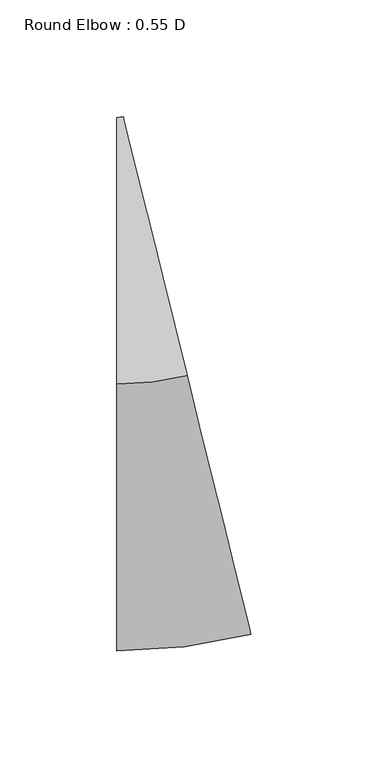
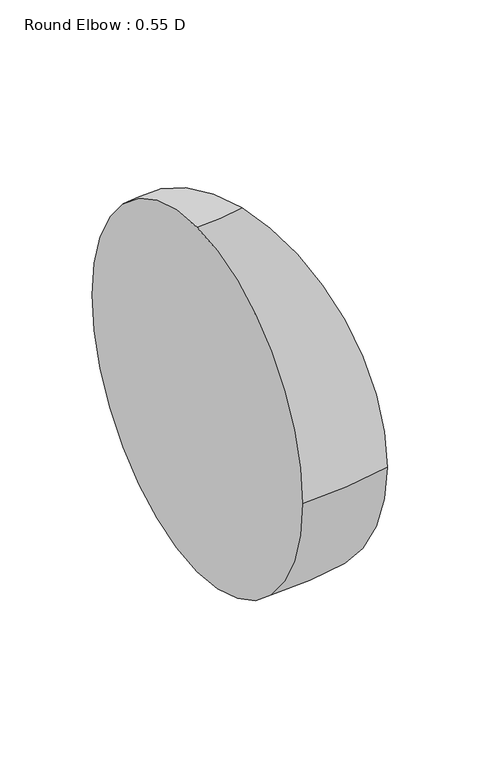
"""IFC4 building model written with IfcOpenShell, lengths in millimetres: duct fitting geometry, Round Elbow : 0.55 D."""

from ifc_helpers import new_model, si_unit, point, frame, origin, place, context, project, spatial, circle_curve, ellipse_curve, trimmed, source, transform, mapped, element, save
from ifc_brep_helpers import plane_surface, revolved_surface, advanced_brep


def round_elbow_0_55_d_2f2e2e61(model_context):
    return source(origin(), model_context, "Body", "AdvancedBrep", [
        advanced_brep(
        [(-15.2743258, 0.0, 114.3), (-15.2743258, 114.3, 0.0), (-15.2743258, 0.0, -114.3), (-15.2743258, -114.3, 0.0), (14.8300266, 3.6572313, 114.3), (42.1976197, -107.318013, 0.0), (14.8300266, 3.6572313, -114.3), (-12.5375665, 114.6324756, 0.0)],
        [
            (0, 1, circle_curve(frame((-15.2743258, 0.0, 0.0), z_axis=(-1.0, 0.0, 0.0), x_axis=(0.0, 1.0, 0.0)), 114.3)),
            (1, 2, circle_curve(frame((-15.2743258, 0.0, 0.0), z_axis=(-1.0, 0.0, 0.0), x_axis=(0.0, 1.0, 0.0)), 114.3)),
            (2, 3, circle_curve(frame((-15.2743258, 0.0, 0.0), z_axis=(-1.0, 0.0, 0.0), x_axis=(0.0, 1.0, 0.0)), 114.3)),
            (3, 0, circle_curve(frame((-15.2743258, 0.0, 0.0), z_axis=(-1.0, 0.0, 0.0), x_axis=(0.0, 1.0, 0.0)), 114.3)),
            (4, 5, circle_curve(frame((14.8300266, 3.6572313, 0.0), z_axis=(0.9709120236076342, 0.23943651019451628, 0.0), x_axis=(-0.23943651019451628, 0.9709120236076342, 0.0)), 114.3)),
            (5, 6, circle_curve(frame((14.8300266, 3.6572313, 0.0), z_axis=(0.9709120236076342, 0.23943651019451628, 0.0), x_axis=(-0.23943651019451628, 0.9709120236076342, 0.0)), 114.3)),
            (6, 7, circle_curve(frame((14.8300266, 3.6572313, 0.0), z_axis=(0.9709120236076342, 0.23943651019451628, 0.0), x_axis=(-0.23943651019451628, 0.9709120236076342, 0.0)), 114.3)),
            (7, 4, circle_curve(frame((14.8300266, 3.6572313, 0.0), z_axis=(0.9709120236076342, 0.23943651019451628, 0.0), x_axis=(-0.23943651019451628, 0.9709120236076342, 0.0)), 114.3)),
            (7, 1, circle_curve(frame((-15.2743258, 125.73, 0.0), z_axis=(0.0, 0.0, -1.0), x_axis=(0.0, -1.0, 0.0)), 11.43)),
            (0, 4, circle_curve(frame((-15.2743258, 125.73, 114.3), z_axis=(0.0, 0.0, 1.0), x_axis=(0.0, -1.0, 0.0)), 125.73)),
            (6, 2, circle_curve(frame((-15.2743258, 125.73, -114.3), z_axis=(0.0, 0.0, -1.0), x_axis=(0.0, -1.0, 0.0)), 125.73)),
            (5, 3, circle_curve(frame((-15.2743258, 125.73, 0.0), z_axis=(0.0, 0.0, -1.0), x_axis=(0.0, -1.0, 0.0)), 240.03)),
        ],
        [
            plane_surface(frame((-15.2743258, 0.0, 0.0), z_axis=(-1.0, 0.0, 0.0), x_axis=(0.0, 0.0, 1.0))),
            plane_surface(frame((14.8300266, 3.6572313, 0.0), z_axis=(0.9709120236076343, 0.2394365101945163, 0.0), x_axis=(0.0, 0.0, 1.0))),
            revolved_surface(trimmed(ellipse_curve(frame((-15.2743258, 0.0, 0.0), z_axis=(-1.0, 0.0, 0.0), x_axis=(0.0, 1.0, 0.0)), 114.3, 114.3), [point((-15.2743258, 0.0, 114.3))], [point((-15.2743258, 114.3, 0.0))], True, "CARTESIAN"), (-15.2743258, 125.73, 0.0), (0.0, 0.0, 1.0)),
            revolved_surface(trimmed(ellipse_curve(frame((-15.2743258, 0.0, 0.0), z_axis=(-1.0, 0.0, 0.0), x_axis=(0.0, 1.0, 0.0)), 114.3, 114.3), [point((-15.2743258, 114.3, 0.0))], [point((-15.2743258, 0.0, -114.3))], True, "CARTESIAN"), (-15.2743258, 125.73, 0.0), (0.0, 0.0, 1.0)),
            revolved_surface(trimmed(ellipse_curve(frame((-15.2743258, 0.0, 0.0), z_axis=(-1.0, 0.0, 0.0), x_axis=(0.0, 1.0, 0.0)), 114.3, 114.3), [point((-15.2743258, 0.0, -114.3))], [point((-15.2743258, -114.3, 0.0))], True, "CARTESIAN"), (-15.2743258, 125.73, 0.0), (0.0, 0.0, 1.0)),
            revolved_surface(trimmed(ellipse_curve(frame((-15.2743258, 0.0, 0.0), z_axis=(-1.0, 0.0, 0.0), x_axis=(0.0, 1.0, 0.0)), 114.3, 114.3), [point((-15.2743258, -114.3, 0.0))], [point((-15.2743258, 0.0, 114.3))], True, "CARTESIAN"), (-15.2743258, 125.73, 0.0), (0.0, 0.0, 1.0)),
        ],
        [
            (0, [[1, 2, 3, 4]]),
            (1, [[5, 6, 7, 8]]),
            (2, [[9, -1, 10, -8]]),
            (3, [[11, -2, -9, -7]]),
            (4, [[12, -3, -11, -6]]),
            (5, [[-10, -4, -12, -5]]),
        ],
    ),
    ])


if __name__ == "__main__":
    model = new_model("IFC4")
    model_context = context("Model", 3, world=origin())
    ifc_project = project(units=[si_unit("LENGTHUNIT", "METRE", prefix="MILLI")], contexts=[model_context])
    site = spatial("IfcSite", under=ifc_project)
    building = spatial("IfcBuilding", under=site)
    placement = place(None, origin())
    round_elbow_0_55_d_shape = round_elbow_0_55_d_2f2e2e61(model_context)
    element("IfcDuctFitting", 1, ObjectType="Round Elbow : 0.55 D", at=placement, inside=building, context=model_context, shape_type="MappedRepresentation", body=[
        mapped(round_elbow_0_55_d_shape, transform((0.0, 0.0, 0.0), x_axis=(1.0, 0.0, 0.0), y_axis=(0.0, 1.0, 0.0), z_axis=(0.0, 0.0, 1.0))),
    ])
    save(model, "model.ifc")
